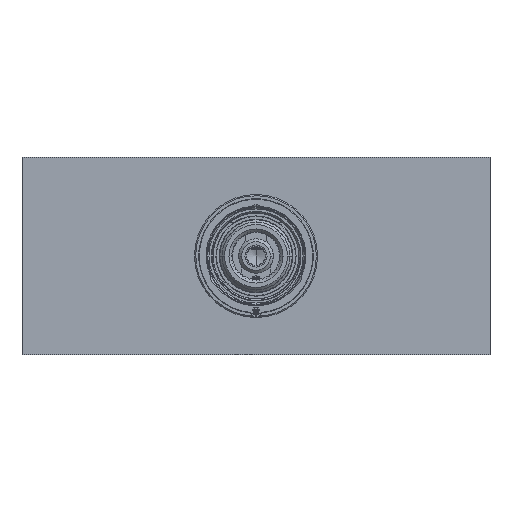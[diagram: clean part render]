
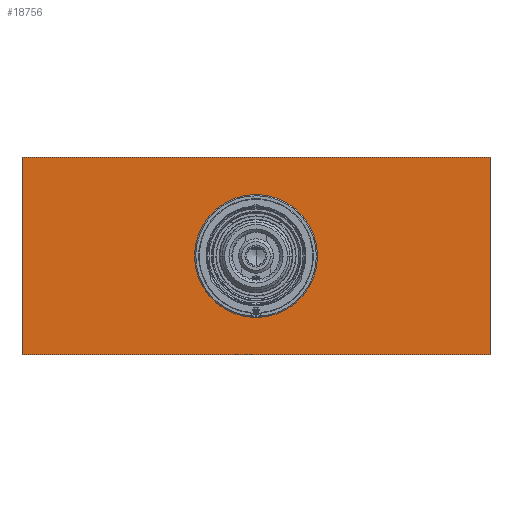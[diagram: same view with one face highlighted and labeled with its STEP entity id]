
A CAD part, front view. The second image highlights one B-rep face of the part: STEP entity #18756.
In plain terms, the highlighted planar face has unit normal (0, -1, 0).
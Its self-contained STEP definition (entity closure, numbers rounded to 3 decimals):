
#9417=DIRECTION('',(0.,0.,1.));
#9418=VECTOR('',#9417,80.);
#9419=CARTESIAN_POINT('',(-95.,93.9,-40.));
#9420=LINE('',#9419,#9418);
#9421=DIRECTION('',(1.,0.,0.));
#9422=VECTOR('',#9421,190.);
#9423=CARTESIAN_POINT('',(-95.,93.9,40.));
#9424=LINE('',#9423,#9422);
#9425=DIRECTION('',(0.,0.,-1.));
#9426=VECTOR('',#9425,80.);
#9427=CARTESIAN_POINT('',(95.,93.9,40.));
#9428=LINE('',#9427,#9426);
#9429=DIRECTION('',(-1.,0.,0.));
#9430=VECTOR('',#9429,190.);
#9431=CARTESIAN_POINT('',(95.,93.9,-40.));
#9432=LINE('',#9431,#9430);
#9433=CARTESIAN_POINT('',(0.,93.9,0.));
#9434=DIRECTION('',(0.,-1.,0.));
#9435=DIRECTION('',(1.,0.,0.));
#9436=AXIS2_PLACEMENT_3D('',#9433,#9434,#9435);
#9438=CARTESIAN_POINT('',(0.,93.9,0.));
#9439=DIRECTION('',(0.,-1.,0.));
#9440=DIRECTION('',(-1.,0.,0.));
#9441=AXIS2_PLACEMENT_3D('',#9438,#9439,#9440);
#15173=CARTESIAN_POINT('',(-95.,93.9,-40.));
#15174=CARTESIAN_POINT('',(-95.,93.9,40.));
#15175=VERTEX_POINT('',#15173);
#15176=VERTEX_POINT('',#15174);
#15177=CARTESIAN_POINT('',(95.,93.9,40.));
#15178=VERTEX_POINT('',#15177);
#15179=CARTESIAN_POINT('',(95.,93.9,-40.));
#15180=VERTEX_POINT('',#15179);
#17610=CARTESIAN_POINT('',(24.775,93.9,0.));
#17611=CARTESIAN_POINT('',(-24.775,93.9,0.));
#17612=VERTEX_POINT('',#17610);
#17613=VERTEX_POINT('',#17611);
#18736=CARTESIAN_POINT('',(0.,93.9,0.));
#18737=DIRECTION('',(0.,1.,0.));
#18738=DIRECTION('',(1.,0.,0.));
#18739=AXIS2_PLACEMENT_3D('',#18736,#18737,#18738);
#18740=PLANE('',#18739);
#18741=ORIENTED_EDGE('',*,*,#18726,.T.);
#18743=ORIENTED_EDGE('',*,*,#18742,.T.);
#18745=ORIENTED_EDGE('',*,*,#18744,.T.);
#18747=ORIENTED_EDGE('',*,*,#18746,.T.);
#18748=EDGE_LOOP('',(#18741,#18743,#18745,#18747));
#18749=FACE_OUTER_BOUND('',#18748,.F.);
#18751=ORIENTED_EDGE('',*,*,#18750,.T.);
#18753=ORIENTED_EDGE('',*,*,#18752,.T.);
#18754=EDGE_LOOP('',(#18751,#18753));
#18755=FACE_BOUND('',#18754,.F.);
#18756=ADVANCED_FACE('',(#18749,#18755),#18740,.F.);
#9437=CIRCLE('',#9436,24.775);
#9442=CIRCLE('',#9441,24.775);
#18726=EDGE_CURVE('',#15175,#15176,#9420,.T.);
#18742=EDGE_CURVE('',#15176,#15178,#9424,.T.);
#18744=EDGE_CURVE('',#15178,#15180,#9428,.T.);
#18746=EDGE_CURVE('',#15180,#15175,#9432,.T.);
#18750=EDGE_CURVE('',#17612,#17613,#9437,.T.);
#18752=EDGE_CURVE('',#17613,#17612,#9442,.T.);
